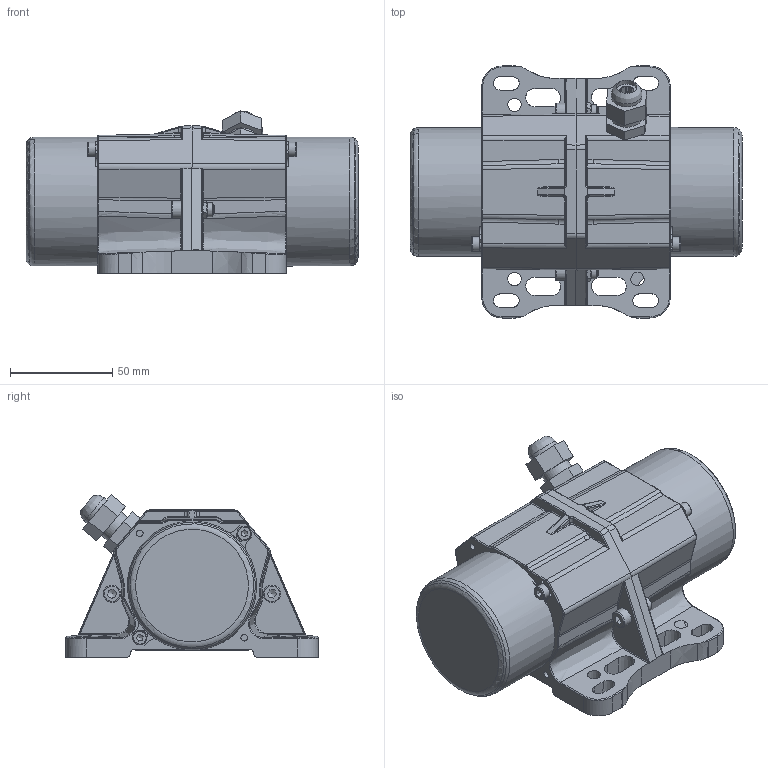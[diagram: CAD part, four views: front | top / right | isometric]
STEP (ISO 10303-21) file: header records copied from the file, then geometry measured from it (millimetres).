
FILE_DESCRIPTION(/* description */ (''),/* implementation_level */ '2;1');
FILE_NAME(/* name */ '',/* time_stamp */ '2026-09-16T17:56:33+03:00',/* author */ ('PC'),/* organization */ (''),/* preprocessor_version */ 'ST-DEVELOPER v20.1',/* originating_system */ 'Autodesk Inventor 2026',/* authorisation */ '');
FILE_SCHEMA (('AUTOMOTIVE_DESIGN { 1 0 10303 214 3 1 1 }'));
Products named in the file (1): MV-2 -(YENİ GÖVDE)
Bounding box: 162 x 123 x 79.34 mm (x, y, z)
Volume: 642904.4 mm3; surface area: 79459.9 mm2
Topology: 1 solids, 10 shells, 892 faces, 2347 edges, 1497 vertices
Faces by surface type: plane 394, bspline 197, cylinder 188, cone 61, torus 38, sphere 14
Full cylindrical faces by diameter (mm): 3.2 x8, 4 x4, 5 x4, 6.9 x2, 7 x4, 8.5 x2, 10 x2, 15 x2, 16.984 x4, 22 x2, 63 x2
Entity records: 41059 total; most frequent: CARTESIAN_POINT 19445, ORIENTED_EDGE 4618, DIRECTION 3772, EDGE_CURVE 2309, VERTEX_POINT 1484, AXIS2_PLACEMENT_3D 1305, LINE 1162, VECTOR 1162
